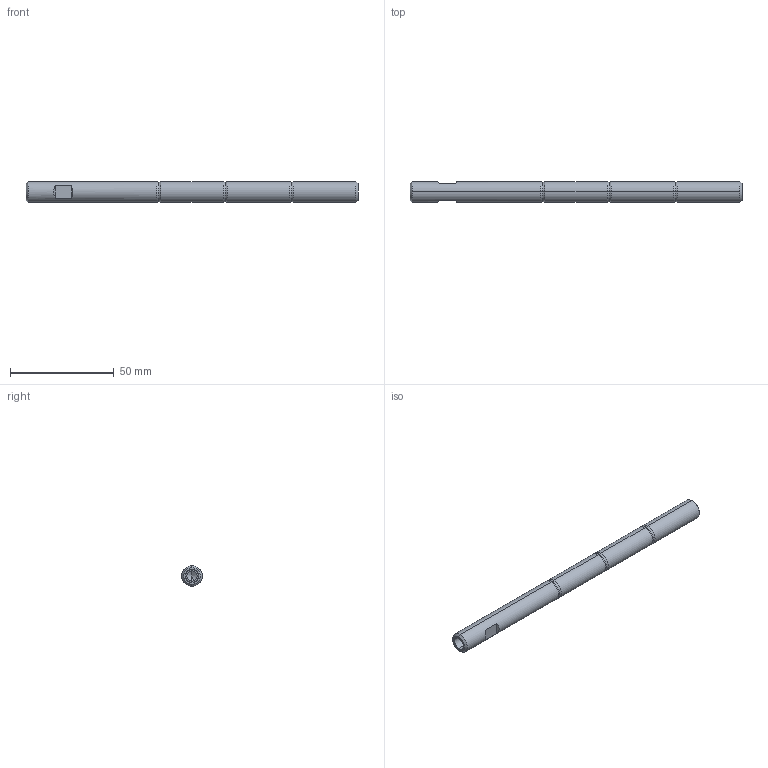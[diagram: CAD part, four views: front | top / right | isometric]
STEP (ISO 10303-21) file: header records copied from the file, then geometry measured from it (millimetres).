
FILE_DESCRIPTION (( 'STEP AP214' ), '1' );
FILE_NAME ('F1050_0610160.STEP', '2024-08-02T10:39:02', ( '' ), ( '' ), 'SwSTEP 2.0', 'SolidWorks 2014', '' );
FILE_SCHEMA (( 'AUTOMOTIVE_DESIGN' ));
Length unit declared in the file: millimetre
Products named in the file (1): F1050_0610160
Bounding box: 160 x 10 x 10 mm (x, y, z)
Volume: 11560.6 mm3; surface area: 5737.9 mm2
Topology: 1 solids, 1 shells, 50 faces, 102 edges, 56 vertices
Faces by surface type: cylinder 16, torus 12, cone 12, plane 10
Entity records: 1310 total; most frequent: DIRECTION 254, CARTESIAN_POINT 217, ORIENTED_EDGE 196, AXIS2_PLACEMENT_3D 109, EDGE_CURVE 98, CIRCLE 58, VERTEX_POINT 56, EDGE_LOOP 56
